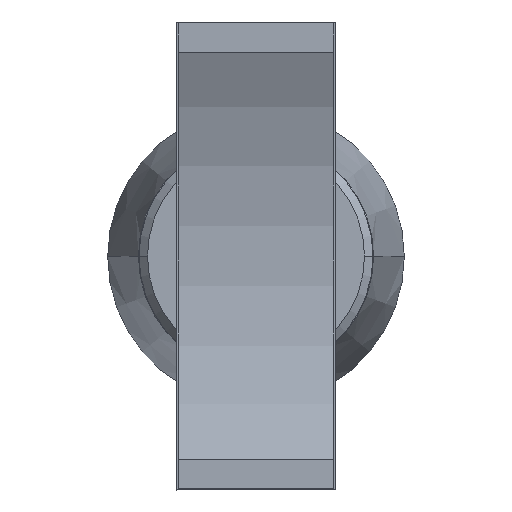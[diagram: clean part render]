
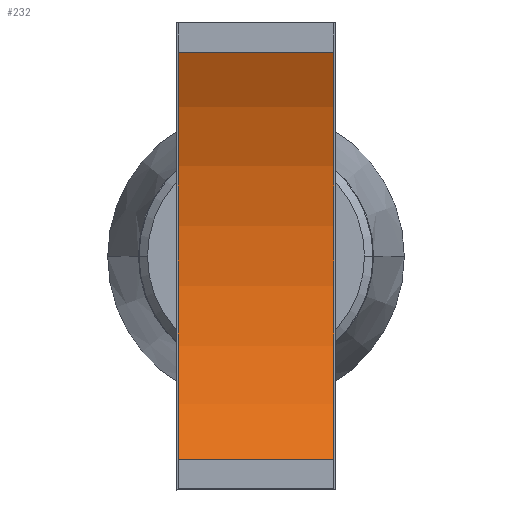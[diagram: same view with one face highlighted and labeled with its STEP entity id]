
A CAD part, top view. The second image highlights one B-rep face of the part: STEP entity #232.
In plain terms, the highlighted cylindrical face has radius 203.2 mm (diameter 406.4 mm), a partial arc.
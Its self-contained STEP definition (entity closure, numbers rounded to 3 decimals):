
#232=ADVANCED_FACE('',(#568),#569,.F.);
#568=FACE_OUTER_BOUND('',#1055,.T.);
#569=CYLINDRICAL_SURFACE('',#1056,203.2);
#1055=EDGE_LOOP('',(#1510,#1511,#1512,#1513));
#1056=AXIS2_PLACEMENT_3D('',#1514,#1515,#1516);
#1510=ORIENTED_EDGE('',*,*,#2780,.T.);
#1511=ORIENTED_EDGE('',*,*,#2781,.F.);
#1512=ORIENTED_EDGE('',*,*,#2782,.T.);
#1513=ORIENTED_EDGE('',*,*,#2777,.T.);
#1514=CARTESIAN_POINT('',(472.99,369.847,179.6));
#1515=DIRECTION('',(-1.0,0.,0.));
#1516=DIRECTION('',(0.,-1.0,0.));
#2777=EDGE_CURVE('',#3281,#3279,#3282,.T.);
#2780=EDGE_CURVE('',#3279,#3285,#3286,.T.);
#2781=EDGE_CURVE('',#3287,#3285,#3288,.T.);
#2782=EDGE_CURVE('',#3287,#3281,#3289,.T.);
#3279=VERTEX_POINT('',#4006);
#3281=VERTEX_POINT('',#4009);
#3282=LINE('',#4010,#4011);
#3285=VERTEX_POINT('',#4015);
#3286=CIRCLE('',#4016,203.2);
#3287=VERTEX_POINT('',#4017);
#3288=LINE('',#4018,#4019);
#3289=CIRCLE('',#4020,203.2);
#4006=CARTESIAN_POINT('',(399.99,465.647,0.4));
#4009=CARTESIAN_POINT('',(472.99,465.647,0.4));
#4010=CARTESIAN_POINT('',(472.99,465.647,0.4));
#4011=VECTOR('',#5646,1.0);
#4015=CARTESIAN_POINT('',(399.99,274.047,0.4));
#4016=AXIS2_PLACEMENT_3D('',#5648,#5649,#5650);
#4017=CARTESIAN_POINT('',(472.99,274.047,0.4));
#4018=CARTESIAN_POINT('',(472.99,274.047,0.4));
#4019=VECTOR('',#5651,1.0);
#4020=AXIS2_PLACEMENT_3D('',#5652,#5653,#5654);
#5646=DIRECTION('',(-1.0,0.,0.));
#5648=CARTESIAN_POINT('',(399.99,369.847,179.6));
#5649=DIRECTION('',(-1.0,0.,0.));
#5650=DIRECTION('',(0.,-1.0,0.));
#5651=DIRECTION('',(-1.0,0.,0.));
#5652=CARTESIAN_POINT('',(472.99,369.847,179.6));
#5653=DIRECTION('',(1.0,0.,0.));
#5654=DIRECTION('',(0.,-1.0,0.));
